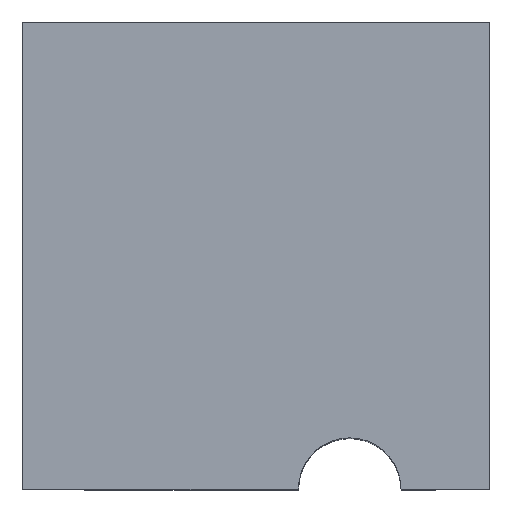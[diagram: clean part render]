
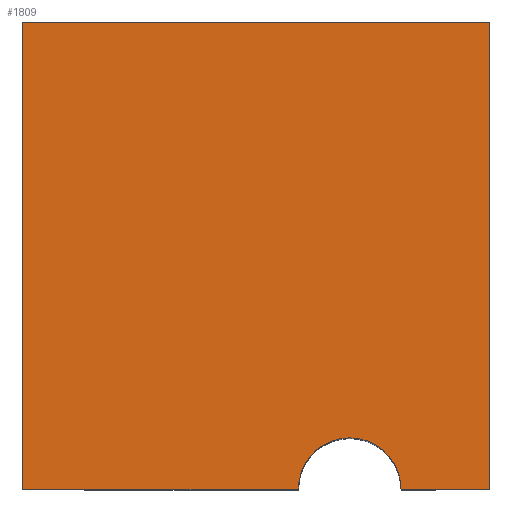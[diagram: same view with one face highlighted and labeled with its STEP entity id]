
A CAD part, top view. The second image highlights one B-rep face of the part: STEP entity #1809.
In plain terms, the highlighted planar face has unit normal (0, 0, 1).
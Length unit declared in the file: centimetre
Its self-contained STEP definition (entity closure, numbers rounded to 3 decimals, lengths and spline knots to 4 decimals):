
#18 = VECTOR ( 'NONE', #876, 100. ) ;
#68 = EDGE_CURVE ( 'NONE', #510, #1319, #729, .T. ) ;
#181 = EDGE_CURVE ( 'NONE', #1440, #573, #761, .T. ) ;
#344 = DIRECTION ( 'NONE',  ( 0., -1., 0. ) ) ;
#386 = ORIENTED_EDGE ( 'NONE', *, *, #1127, .T. ) ;
#457 = ORIENTED_EDGE ( 'NONE', *, *, #68, .T. ) ;
#510 = VERTEX_POINT ( 'NONE', #1452 ) ;
#520 = DIRECTION ( 'NONE',  ( 0., 0., 1. ) ) ;
#551 = VECTOR ( 'NONE', #1740, 100. ) ;
#572 = ORIENTED_EDGE ( 'NONE', *, *, #1613, .T. ) ;
#573 = VERTEX_POINT ( 'NONE', #925 ) ;
#587 = CARTESIAN_POINT ( 'NONE',  ( 590.7098, 0., 1000. ) ) ;
#595 = ORIENTED_EDGE ( 'NONE', *, *, #1682, .T. ) ;
#647 = CARTESIAN_POINT ( 'NONE',  ( 0., 1000., 1000. ) ) ;
#703 = VERTEX_POINT ( 'NONE', #1522 ) ;
#729 = LINE ( 'NONE', #1670, #18 ) ;
#739 = CARTESIAN_POINT ( 'NONE',  ( 700.5824, 0., 1000. ) ) ;
#761 = CIRCLE ( 'NONE', #1513, 109.8726 ) ;
#767 = ORIENTED_EDGE ( 'NONE', *, *, #181, .T. ) ;
#822 = VECTOR ( 'NONE', #1892, 100. ) ;
#876 = DIRECTION ( 'NONE',  ( -1., 0., 0. ) ) ;
#921 = VECTOR ( 'NONE', #1288, 100. ) ;
#925 = CARTESIAN_POINT ( 'NONE',  ( 810.455, 0., 1000. ) ) ;
#1008 = LINE ( 'NONE', #1501, #921 ) ;
#1095 = CARTESIAN_POINT ( 'NONE',  ( 0., 0., 1000. ) ) ;
#1124 = LINE ( 'NONE', #647, #1778 ) ;
#1127 = EDGE_CURVE ( 'NONE', #1843, #1440, #1444, .T. ) ;
#1171 = DIRECTION ( 'NONE',  ( 1., 0., 0. ) ) ;
#1288 = DIRECTION ( 'NONE',  ( 0., 1., 0. ) ) ;
#1319 = VERTEX_POINT ( 'NONE', #1794 ) ;
#1334 = FACE_OUTER_BOUND ( 'NONE', #1544, .T. ) ;
#1374 = AXIS2_PLACEMENT_3D ( 'NONE', #1980, #520, #1171 ) ;
#1417 = DIRECTION ( 'NONE',  ( 0., 0., -1. ) ) ;
#1440 = VERTEX_POINT ( 'NONE', #587 ) ;
#1444 = LINE ( 'NONE', #2078, #551 ) ;
#1452 = CARTESIAN_POINT ( 'NONE',  ( 1000., 1000., 1000. ) ) ;
#1501 = CARTESIAN_POINT ( 'NONE',  ( 1000., 1000., 1000. ) ) ;
#1513 = AXIS2_PLACEMENT_3D ( 'NONE', #739, #1417, #2062 ) ;
#1522 = CARTESIAN_POINT ( 'NONE',  ( 1000., 0., 1000. ) ) ;
#1544 = EDGE_LOOP ( 'NONE', ( #767, #572, #1953, #457, #595, #386 ) ) ;
#1613 = EDGE_CURVE ( 'NONE', #573, #703, #1728, .T. ) ;
#1670 = CARTESIAN_POINT ( 'NONE',  ( 0., 1000., 1000. ) ) ;
#1682 = EDGE_CURVE ( 'NONE', #1319, #1843, #1124, .T. ) ;
#1728 = LINE ( 'NONE', #1095, #822 ) ;
#1740 = DIRECTION ( 'NONE',  ( 1., 0., 0. ) ) ;
#1778 = VECTOR ( 'NONE', #344, 100. ) ;
#1794 = CARTESIAN_POINT ( 'NONE',  ( 0., 1000., 1000. ) ) ;
#1809 = ADVANCED_FACE ( 'NONE', ( #1334 ), #1823, .T. ) ;
#1823 = PLANE ( 'NONE',  #1374 ) ;
#1824 = EDGE_CURVE ( 'NONE', #703, #510, #1008, .T. ) ;
#1843 = VERTEX_POINT ( 'NONE', #1995 ) ;
#1892 = DIRECTION ( 'NONE',  ( 1., 0., 0. ) ) ;
#1953 = ORIENTED_EDGE ( 'NONE', *, *, #1824, .T. ) ;
#1980 = CARTESIAN_POINT ( 'NONE',  ( 0., 0., 1000. ) ) ;
#1995 = CARTESIAN_POINT ( 'NONE',  ( 0., 0., 1000. ) ) ;
#2062 = DIRECTION ( 'NONE',  ( -1., 0., 0. ) ) ;
#2078 = CARTESIAN_POINT ( 'NONE',  ( 0., 0., 1000. ) ) ;
